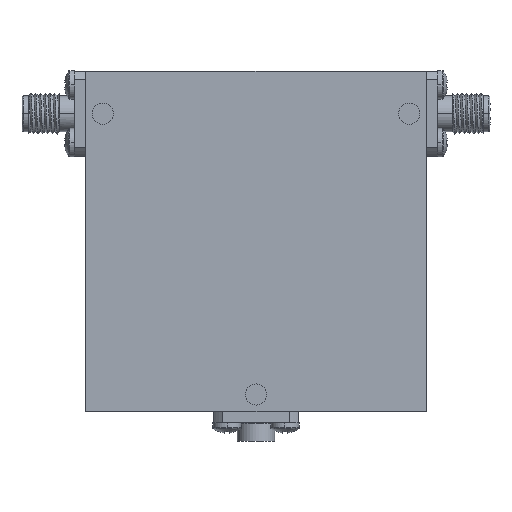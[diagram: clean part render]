
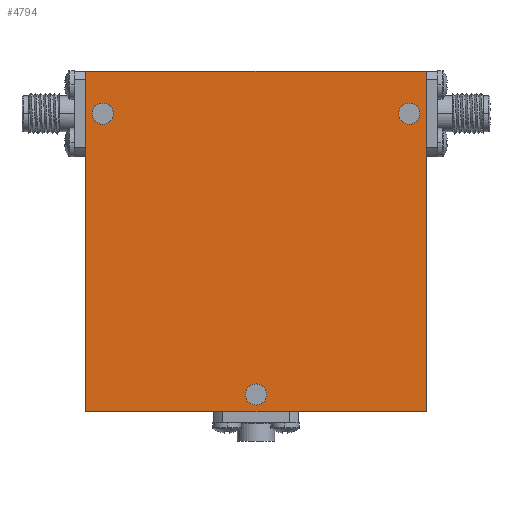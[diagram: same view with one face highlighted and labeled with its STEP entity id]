
A CAD part, top view. The second image highlights one B-rep face of the part: STEP entity #4794.
In plain terms, the highlighted planar face has unit normal (0, 0, 1) as drawn and (0, 0, -1) by its records, which use the part's own axes.
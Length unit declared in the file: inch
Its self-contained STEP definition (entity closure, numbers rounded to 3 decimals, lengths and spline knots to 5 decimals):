
#66 = CARTESIAN_POINT ( 'NONE',  ( 0.25, -0.65, -0.35 ) ) ;
#92 = ORIENTED_EDGE ( 'NONE', *, *, #3005, .F. ) ;
#117 = AXIS2_PLACEMENT_3D ( 'NONE', #4753, #3162, #4373 ) ;
#228 = VECTOR ( 'NONE', #1829, 39.37008 ) ;
#292 = DIRECTION ( 'NONE',  ( 1., 0., 0. ) ) ;
#318 = DIRECTION ( 'NONE',  ( 0., 0., 1. ) ) ;
#352 = VERTEX_POINT ( 'NONE', #1169 ) ;
#369 = ORIENTED_EDGE ( 'NONE', *, *, #3542, .T. ) ;
#423 = VERTEX_POINT ( 'NONE', #1209 ) ;
#434 = DIRECTION ( 'NONE',  ( 1., 0., 0. ) ) ;
#460 = DIRECTION ( 'NONE',  ( 1., 0., 0. ) ) ;
#520 = AXIS2_PLACEMENT_3D ( 'NONE', #1836, #318, #292 ) ;
#536 = FACE_OUTER_BOUND ( 'NONE', #4524, .T. ) ;
#563 = CARTESIAN_POINT ( 'NONE',  ( 0., 0., -0.35 ) ) ;
#599 = FACE_BOUND ( 'NONE', #4145, .T. ) ;
#613 = ORIENTED_EDGE ( 'NONE', *, *, #984, .F. ) ;
#624 = EDGE_LOOP ( 'NONE', ( #4324, #369 ) ) ;
#767 = ORIENTED_EDGE ( 'NONE', *, *, #2214, .T. ) ;
#781 = VERTEX_POINT ( 'NONE', #3313 ) ;
#787 = EDGE_CURVE ( 'NONE', #3726, #781, #2910, .T. ) ;
#832 = ORIENTED_EDGE ( 'NONE', *, *, #1787, .T. ) ;
#984 = EDGE_CURVE ( 'NONE', #1381, #1048, #2376, .T. ) ;
#1048 = VERTEX_POINT ( 'NONE', #2587 ) ;
#1107 = EDGE_LOOP ( 'NONE', ( #832, #4336 ) ) ;
#1147 = CIRCLE ( 'NONE', #4826, 0.0625 ) ;
#1169 = CARTESIAN_POINT ( 'NONE',  ( 1.25, 1.25, -0.35 ) ) ;
#1172 = CARTESIAN_POINT ( 'NONE',  ( -0.75, 1.25, -0.35 ) ) ;
#1209 = CARTESIAN_POINT ( 'NONE',  ( 0.1875, -0.65, -0.35 ) ) ;
#1286 = VECTOR ( 'NONE', #2838, 39.37008 ) ;
#1362 = CIRCLE ( 'NONE', #117, 0.0625 ) ;
#1381 = VERTEX_POINT ( 'NONE', #1172 ) ;
#1530 = EDGE_CURVE ( 'NONE', #2494, #352, #4781, .T. ) ;
#1576 = CARTESIAN_POINT ( 'NONE',  ( 1.15, 1., -0.35 ) ) ;
#1682 = DIRECTION ( 'NONE',  ( 1., 0., 0. ) ) ;
#1770 = LINE ( 'NONE', #4086, #228 ) ;
#1779 = DIRECTION ( 'NONE',  ( 0., 0., 1. ) ) ;
#1787 = EDGE_CURVE ( 'NONE', #3675, #423, #1362, .T. ) ;
#1829 = DIRECTION ( 'NONE',  ( -1., 0., 0. ) ) ;
#1836 = CARTESIAN_POINT ( 'NONE',  ( -0.65, 1., -0.35 ) ) ;
#1844 = CIRCLE ( 'NONE', #3544, 0.0625 ) ;
#1876 = LINE ( 'NONE', #4693, #1286 ) ;
#1923 = DIRECTION ( 'NONE',  ( 0., 0., 1. ) ) ;
#2005 = CARTESIAN_POINT ( 'NONE',  ( 1.0875, 1., -0.35 ) ) ;
#2133 = DIRECTION ( 'NONE',  ( 1., 0., 0. ) ) ;
#2139 = CIRCLE ( 'NONE', #4502, 0.0625 ) ;
#2212 = CARTESIAN_POINT ( 'NONE',  ( 1.25, -0.75, -0.35 ) ) ;
#2214 = EDGE_CURVE ( 'NONE', #4609, #2767, #2139, .T. ) ;
#2299 = CIRCLE ( 'NONE', #2653, 0.0625 ) ;
#2375 = DIRECTION ( 'NONE',  ( 1., 0., 0. ) ) ;
#2376 = LINE ( 'NONE', #4370, #2442 ) ;
#2442 = VECTOR ( 'NONE', #4793, 39.37008 ) ;
#2450 = PLANE ( 'NONE',  #3377 ) ;
#2494 = VERTEX_POINT ( 'NONE', #2212 ) ;
#2587 = CARTESIAN_POINT ( 'NONE',  ( -0.75, -0.75, -0.35 ) ) ;
#2596 = EDGE_CURVE ( 'NONE', #2767, #4609, #2299, .T. ) ;
#2653 = AXIS2_PLACEMENT_3D ( 'NONE', #1576, #1923, #434 ) ;
#2654 = ORIENTED_EDGE ( 'NONE', *, *, #1530, .F. ) ;
#2713 = CARTESIAN_POINT ( 'NONE',  ( 1.25, 1.25, -0.35 ) ) ;
#2767 = VERTEX_POINT ( 'NONE', #2820 ) ;
#2769 = EDGE_CURVE ( 'NONE', #1048, #2494, #1876, .T. ) ;
#2820 = CARTESIAN_POINT ( 'NONE',  ( 1.2125, 1., -0.35 ) ) ;
#2838 = DIRECTION ( 'NONE',  ( 1., 0., 0. ) ) ;
#2910 = CIRCLE ( 'NONE', #520, 0.0625 ) ;
#2940 = CARTESIAN_POINT ( 'NONE',  ( -0.5875, 1., -0.35 ) ) ;
#3005 = EDGE_CURVE ( 'NONE', #352, #1381, #1770, .T. ) ;
#3112 = DIRECTION ( 'NONE',  ( 0., 0., 1. ) ) ;
#3162 = DIRECTION ( 'NONE',  ( 0., 0., 1. ) ) ;
#3204 = DIRECTION ( 'NONE',  ( 0., 0., 1. ) ) ;
#3313 = CARTESIAN_POINT ( 'NONE',  ( -0.7125, 1., -0.35 ) ) ;
#3357 = VECTOR ( 'NONE', #3423, 39.37008 ) ;
#3377 = AXIS2_PLACEMENT_3D ( 'NONE', #563, #3204, #1682 ) ;
#3423 = DIRECTION ( 'NONE',  ( 0., 1., 0. ) ) ;
#3464 = CARTESIAN_POINT ( 'NONE',  ( 1.15, 1., -0.35 ) ) ;
#3542 = EDGE_CURVE ( 'NONE', #781, #3726, #1147, .T. ) ;
#3544 = AXIS2_PLACEMENT_3D ( 'NONE', #66, #3112, #2375 ) ;
#3675 = VERTEX_POINT ( 'NONE', #4481 ) ;
#3726 = VERTEX_POINT ( 'NONE', #2940 ) ;
#4086 = CARTESIAN_POINT ( 'NONE',  ( -0.75, 1.25, -0.35 ) ) ;
#4096 = ORIENTED_EDGE ( 'NONE', *, *, #2769, .F. ) ;
#4145 = EDGE_LOOP ( 'NONE', ( #4627, #767 ) ) ;
#4176 = FACE_BOUND ( 'NONE', #1107, .T. ) ;
#4324 = ORIENTED_EDGE ( 'NONE', *, *, #787, .T. ) ;
#4336 = ORIENTED_EDGE ( 'NONE', *, *, #4657, .T. ) ;
#4370 = CARTESIAN_POINT ( 'NONE',  ( -0.75, 1.25, -0.35 ) ) ;
#4373 = DIRECTION ( 'NONE',  ( 1., 0., 0. ) ) ;
#4374 = CARTESIAN_POINT ( 'NONE',  ( -0.65, 1., -0.35 ) ) ;
#4481 = CARTESIAN_POINT ( 'NONE',  ( 0.3125, -0.65, -0.35 ) ) ;
#4502 = AXIS2_PLACEMENT_3D ( 'NONE', #3464, #4607, #460 ) ;
#4524 = EDGE_LOOP ( 'NONE', ( #2654, #4096, #613, #92 ) ) ;
#4604 = FACE_BOUND ( 'NONE', #624, .T. ) ;
#4607 = DIRECTION ( 'NONE',  ( 0., 0., 1. ) ) ;
#4609 = VERTEX_POINT ( 'NONE', #2005 ) ;
#4627 = ORIENTED_EDGE ( 'NONE', *, *, #2596, .T. ) ;
#4657 = EDGE_CURVE ( 'NONE', #423, #3675, #1844, .T. ) ;
#4693 = CARTESIAN_POINT ( 'NONE',  ( -0.75, -0.75, -0.35 ) ) ;
#4753 = CARTESIAN_POINT ( 'NONE',  ( 0.25, -0.65, -0.35 ) ) ;
#4781 = LINE ( 'NONE', #2713, #3357 ) ;
#4793 = DIRECTION ( 'NONE',  ( 0., -1., 0. ) ) ;
#4794 = ADVANCED_FACE ( 'NONE', ( #599, #4176, #4604, #536 ), #2450, .F. ) ;
#4826 = AXIS2_PLACEMENT_3D ( 'NONE', #4374, #1779, #2133 ) ;
